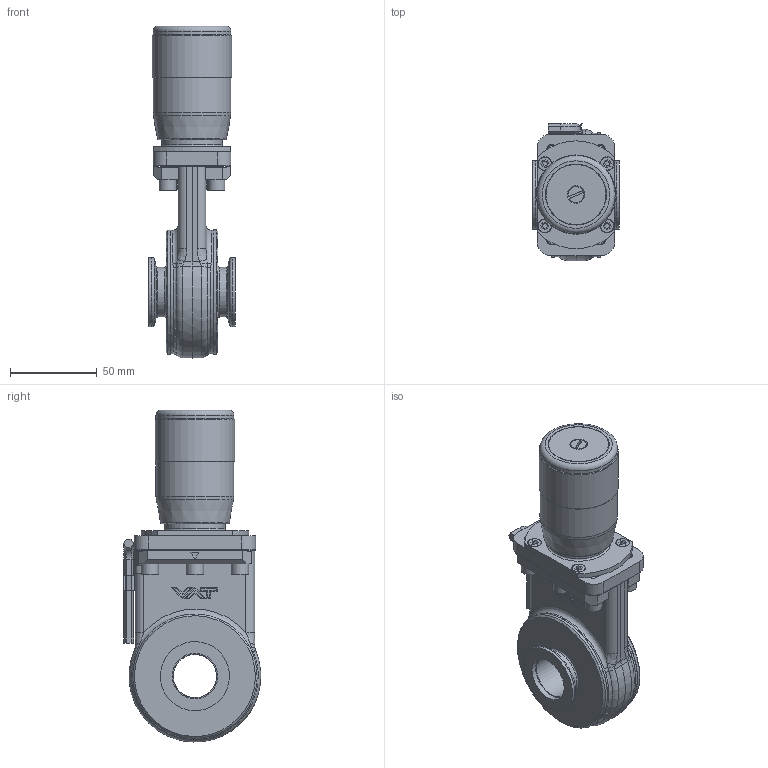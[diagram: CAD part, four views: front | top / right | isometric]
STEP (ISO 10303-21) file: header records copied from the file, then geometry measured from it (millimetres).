
FILE_DESCRIPTION(/* description */ (''),/* implementation_level */ '2;1');
FILE_NAME(/* name */ '1377779552_203',/* time_stamp */ '2009-09-17T12:21:39+02:00',/* author */ (''),/* organization */ (''),/* preprocessor_version */ 'ST-DEVELOPER v11',/* originating_system */ 'UGS - NX 5.0',/* authorisation */ '');
FILE_SCHEMA (('CONFIG_CONTROL_DESIGN'));
Length unit declared in the file: millimetre
Products named in the file (18): 63150-01; 69852-01; 63172-01; 87466-01.1; n-6011-473.1; 66230-01.2; n-6013-444.1; 63194-01.2; 66228-01.3; 63152-01.4; 228772.1; 69968-01.1; 73280-01_1.1; 65209-01.2; 318865; 63170-r1; 66268-r1.5; 345870
Assembly tree (28 placements, depth 5):
  345870
    65209-01.2
    73280-01_1.1
    69968-01.1
    228772.1  x6
    63152-01.4
    66228-01.3
    63194-01.2
    n-6013-444.1  x4
    66230-01.2
    n-6011-473.1
    66268-r1.5
      63172-01
      69852-01
      63170-r1
        318865
          63150-01  x2
      87466-01.1
    87466-01.1  x2
Bounding box: 50 x 79.41 x 191.82 mm (x, y, z)
Volume: 333826.9 mm3; surface area: 171484 mm2
Topology: 38 solids, 38 shells, 759 faces, 1796 edges, 1148 vertices
Faces by surface type: plane 410, cylinder 194, cone 59, bspline 57, torus 39
Full cylindrical faces by diameter (mm): 3.4 x2, 4 x8, 4.16 x1, 4.2 x1, 4.25 x4, 4.96 x6, 5 x7, 5.25 x1, 5.95 x2, 6 x18, 6.2 x10, 6.95 x2, 7.5 x4, 9.85 x1, 10 x6, 20.75 x1, 24.7 x2, 25.1 x3, 26.3 x3, 28.75 x3, 33.075 x1, 34.75 x1, 35.1 x1, 35.25 x2, 39.1 x1, 39.92 x3, 45 x2, 45.8 x1, 66.65 x3, 67.9 x3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
Entity records: 25682 total; most frequent: CARTESIAN_POINT 10217, DIRECTION 2659, ORIENTED_EDGE 2608, EDGE_CURVE 1304, AXIS2_PLACEMENT_3D 947, VERTEX_POINT 901, EDGE_LOOP 780, LINE 765
